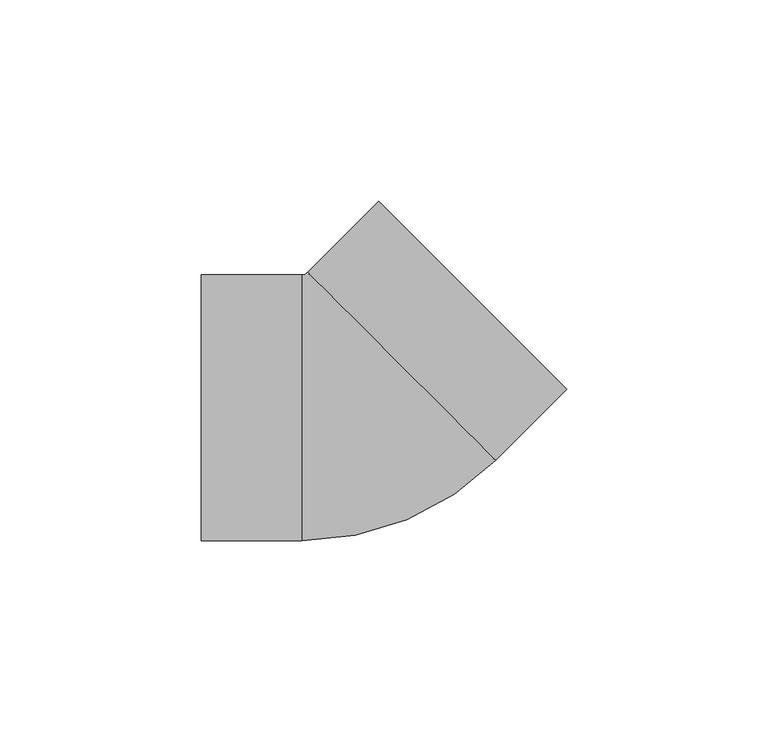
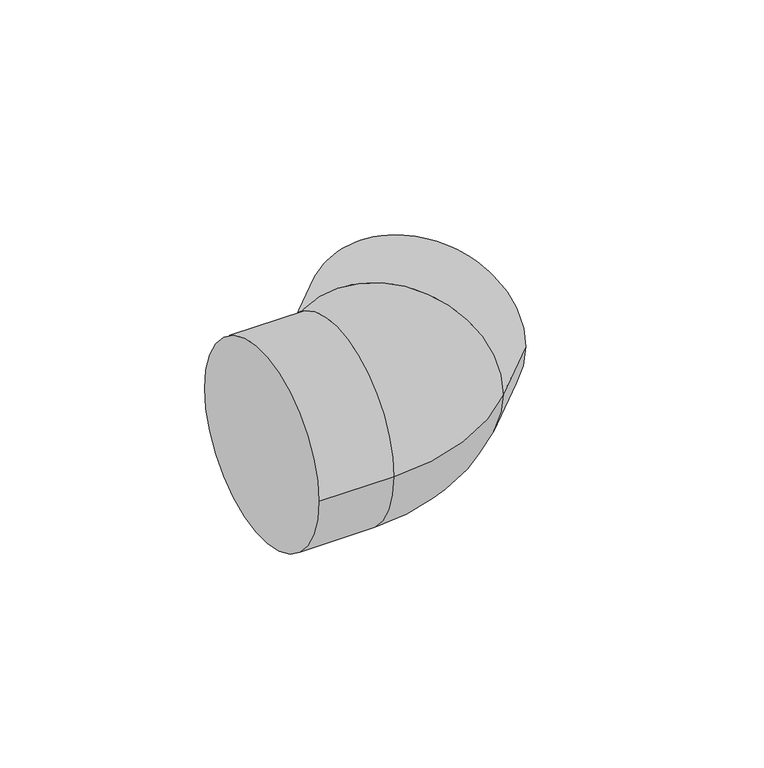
"""IFC4 building model written with IfcOpenShell, lengths in millimetres: pipe fitting geometry, NIRON RED termofusion codo : Estándar."""

from ifc_helpers import new_model, si_unit, point, frame, origin, place, context, project, spatial, circle_curve, ellipse_curve, trimmed, source, transform, mapped, element, save
from ifc_brep_helpers import plane_surface, cylinder_surface, revolved_surface, advanced_brep


def pipe_fitting_0658b206(model_context):
    return source(origin(), model_context, "Body", "AdvancedBrep", [
        advanced_brep(
        [(-39.5, -33.0, 0.0), (-39.5, 33.0, 0.0), (-14.5, -33.0, 0.0), (-14.5, 33.0, 0.0), (-13.0814755, 33.5875721, 0.0), (33.5875721, -13.0814755, 0.0), (10.2530483, 10.2530483, 33.0), (10.2530483, 10.2530483, -33.0), (51.2652416, 4.5961941, 0.0), (4.5961941, 51.2652416, 0.0)],
        [
            (0, 1, circle_curve(frame((-39.5, 0.0, 0.0), z_axis=(-1.0, 0.0, 0.0), x_axis=(0.0, 1.0, 0.0)), 33.0)),
            (1, 0, circle_curve(frame((-39.5, 0.0, 0.0), z_axis=(-1.0, 0.0, 0.0), x_axis=(0.0, 1.0, 0.0)), 33.0)),
            (0, 2),
            (2, 3, circle_curve(frame((-14.5, 0.0, 0.0), z_axis=(-1.0, 0.0, 0.0), x_axis=(0.0, 1.0, 0.0)), 33.0)),
            (3, 1),
            (3, 2, circle_curve(frame((-14.5, 0.0, 0.0), z_axis=(-1.0, 0.0, 0.0), x_axis=(0.0, 1.0, 0.0)), 33.0)),
            (4, 3, circle_curve(frame((-14.5, 35.0060967, 0.0), z_axis=(0.0, 0.0, -1.0), x_axis=(0.0, -1.0, 0.0)), 2.0060967)),
            (2, 5, circle_curve(frame((-14.5, 35.0060967, 0.0), z_axis=(0.0, 0.0, 1.0), x_axis=(0.0, -1.0, 0.0)), 68.0060967)),
            (5, 6, circle_curve(frame((10.2530483, 10.2530483, 0.0), z_axis=(-0.7071067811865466, -0.7071067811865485, 0.0), x_axis=(-0.7071067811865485, 0.7071067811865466, 0.0)), 33.0)),
            (6, 4, circle_curve(frame((10.2530483, 10.2530483, 0.0), z_axis=(-0.7071067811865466, -0.7071067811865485, 0.0), x_axis=(-0.7071067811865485, 0.7071067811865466, 0.0)), 33.0)),
            (4, 7, circle_curve(frame((10.2530483, 10.2530483, 0.0), z_axis=(-0.7071067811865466, -0.7071067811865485, 0.0), x_axis=(-0.7071067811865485, 0.7071067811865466, 0.0)), 33.0)),
            (7, 5, circle_curve(frame((10.2530483, 10.2530483, 0.0), z_axis=(-0.7071067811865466, -0.7071067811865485, 0.0), x_axis=(-0.7071067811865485, 0.7071067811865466, 0.0)), 33.0)),
            (8, 9, circle_curve(frame((27.9307179, 27.9307179, 0.0), z_axis=(0.7071067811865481, 0.707106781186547, 0.0), x_axis=(-0.707106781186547, 0.7071067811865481, 0.0)), 33.0)),
            (9, 8, circle_curve(frame((27.9307179, 27.9307179, 0.0), z_axis=(0.7071067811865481, 0.707106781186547, 0.0), x_axis=(-0.707106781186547, 0.7071067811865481, 0.0)), 33.0)),
            (9, 4),
            (5, 8),
        ],
        [
            plane_surface(frame((-39.5, 0.0, 0.0), z_axis=(-1.0, 0.0, 0.0), x_axis=(0.0, 0.0, 1.0))),
            cylinder_surface(frame((-39.5, 0.0, 0.0), z_axis=(-1.0, 0.0, 0.0), x_axis=(0.0, 1.0, 0.0)), 33.0),
            revolved_surface(trimmed(ellipse_curve(frame((-14.5, 0.0, 0.0), z_axis=(-1.0, 0.0, 0.0), x_axis=(0.0, 1.0, 0.0)), 33.0, 33.0), [point((-14.5, -33.0, 0.0))], [point((-14.5, 33.0, 0.0))], True, "CARTESIAN"), (-14.5, 35.0060967, 0.0), (0.0, 0.0, 1.0)),
            revolved_surface(trimmed(ellipse_curve(frame((-14.5, 0.0, 0.0), z_axis=(-1.0, 0.0, 0.0), x_axis=(0.0, 1.0, 0.0)), 33.0, 33.0), [point((-14.5, 33.0, 0.0))], [point((-14.5, -33.0, 0.0))], True, "CARTESIAN"), (-14.5, 35.0060967, 0.0), (0.0, 0.0, 1.0)),
            plane_surface(frame((27.9307179, 27.9307179, 0.0), z_axis=(0.7071067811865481, 0.707106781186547, 0.0), x_axis=(0.0, 0.0, 1.0))),
            cylinder_surface(frame((10.2530483, 10.2530483, 0.0), z_axis=(-0.7071067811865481, -0.707106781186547, 0.0), x_axis=(-0.707106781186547, 0.7071067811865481, 0.0)), 33.0),
        ],
        [
            (0, [[1, 2]]),
            (1, [[-1, 3, 4, 5]]),
            (1, [[-2, -5, 6, -3]]),
            (2, [[7, -4, 8, 9, 10]]),
            (3, [[-7, 11, 12, -8, -6]]),
            (4, [[13, 14]]),
            (5, [[-14, 15, -10, -9, 16]]),
            (5, [[-13, -16, -12, -11, -15]]),
        ],
    ),
    ])


if __name__ == "__main__":
    model = new_model("IFC4")
    model_context = context("Model", 3, world=origin())
    ifc_project = project(units=[si_unit("LENGTHUNIT", "METRE", prefix="MILLI")], contexts=[model_context])
    site = spatial("IfcSite", under=ifc_project)
    building = spatial("IfcBuilding", under=site)
    placement = place(None, origin())
    pipe_fitting_shape = pipe_fitting_0658b206(model_context)
    element("IfcPipeFitting", 1, ObjectType="NIRON RED termofusion codo : Estándar", at=placement, inside=building, context=model_context, shape_type="MappedRepresentation", body=[
        mapped(pipe_fitting_shape, transform((0.0, 0.0, 0.0), x_axis=(1.0, 0.0, 0.0), y_axis=(0.0, 1.0, 0.0), z_axis=(0.0, 0.0, 1.0))),
    ])
    save(model, "model.ifc")
